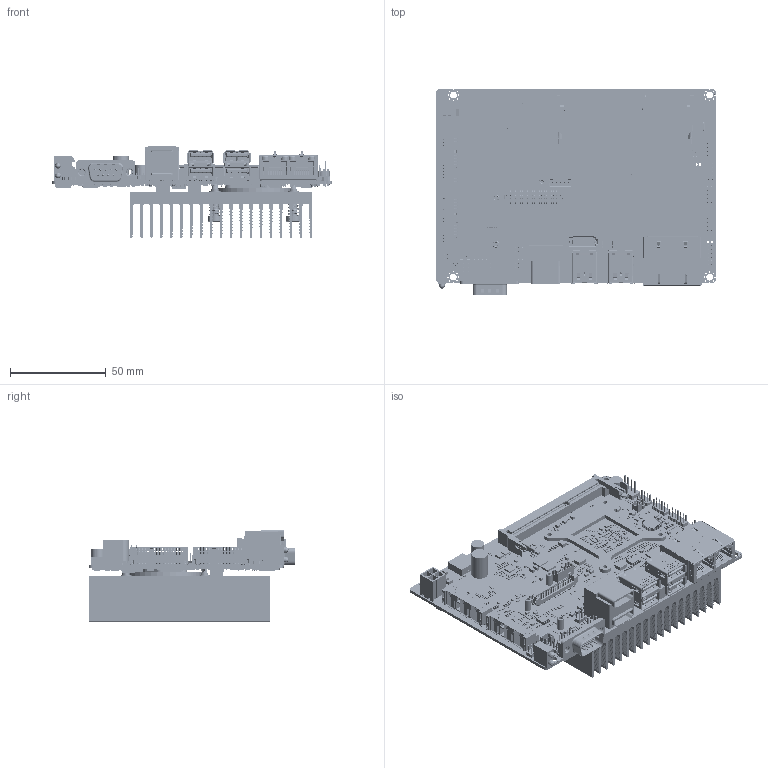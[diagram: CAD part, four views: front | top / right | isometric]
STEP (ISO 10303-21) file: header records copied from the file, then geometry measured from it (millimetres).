
FILE_DESCRIPTION((''),'2;1');
FILE_NAME('ECM-APL2-B1_M_ASM','2020-07-08T13:42:53',('jamie_liao'),(''),'CREO PARAMETRIC BY PTC INC, 2017110','CREO PARAMETRIC BY PTC INC, 2017110','');
FILE_SCHEMA(('CONFIG_CONTROL_DESIGN','GEOMETRIC_VALIDATION_PROPERTIES_MIM'));
Products named in the file (112): ECM-APL2-B1_M; E14S3820700H; E1652528305R; E1752500004H; E1613310000R; E1662520207R; E14S5930600H; E14S4348700H; E1613320001R; E1305063040H; E1183627731H; E1181656721H; E14S3019800H; E14S3122000H; E14S3360100H; E14S3506900H; E121220222EH; E1315090810H; E1212206811H; E1662510201H; E1315065410H; E1315833310H; E1315546810H; E1315832110H; E1315832710H; E1301034041H; E10187005CXH; E1667220301R; A-C1206; E1613420000R; E1613520001R; E1752500003H; E16E0096100R; E1213009005H; E1213006702H; E1213008000H; E16C4070000H; E1672620202R; E123130256CH; E14S5F10700H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
Assembly tree (1433 placements, depth 5):
  ECM-APL2-B1_M_ASM
    ECM-APL2-B1_M
    E14S3820700H
    E1652528305R
    E1752500004H
    E1613310000R  x4
    E1662520207R
    E14S5930600H
    E14S4348700H
    E1613320001R  x2
    E1305063040H
    E1183627731H
    E1181656721H
    E14S3019800H
    E14S3122000H
    E14S3360100H  x2
    E14S3506900H
    E121220222EH
    E1315090810H
    E1212206811H
    E1662510201H
    E1315065410H
    E1315833310H  x3
    E1315546810H  x2
    E1315832110H  x3
    E1315832710H  x3
    E1301034041H
    E10187005CXH
    E1667220301R
    A-C1206  x21
    E1613420000R
    E1613520001R
    E1752500003H
    E16E0096100R
    E1213009005H  x18
    E1213006702H  x4
    E1213008000H  x4
    E16C4070000H
    E1672620202R
    E123130256CH  x2
    E14S5F10700H
    E14S4751101H
    E118X633760H  x2
    E14S4930601H  x2
    E16F1038031R
    E14S3204300H
    E14S3520900H  x3
    E1613620000R  x2
    E16D5I00301R  x2
    E1060708221H  x6
    E14S4021100H  x2
    E14S4852801H
    E1183610723H
    E1660210201H
    E1613520000R  x3
    E1304400003H
    E1662210201H  x2
    E1655004006R
    E1301581741H  x2
    E14S3233000H  x2
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Bounding box: 146.05 x 108.13 x 48.08 mm (x, y, z)
Volume: 155935.6 mm3; surface area: 186287.8 mm2
Topology: 1530 solids, 1549 shells, 39020 faces, 106297 edges, 69807 vertices
Faces by surface type: plane 30881, cylinder 7509, bspline 356, cone 118, torus 91, sphere 51, extrusion 14
Entity records: 945645 total; most frequent: CARTESIAN_POINT 175284, ORIENTED_EDGE 153925, DIRECTION 144930, EDGE_CURVE 77021, VECTOR 60876, LINE 60866, VERTEX_POINT 50773, AXIS2_PLACEMENT_3D 42027
